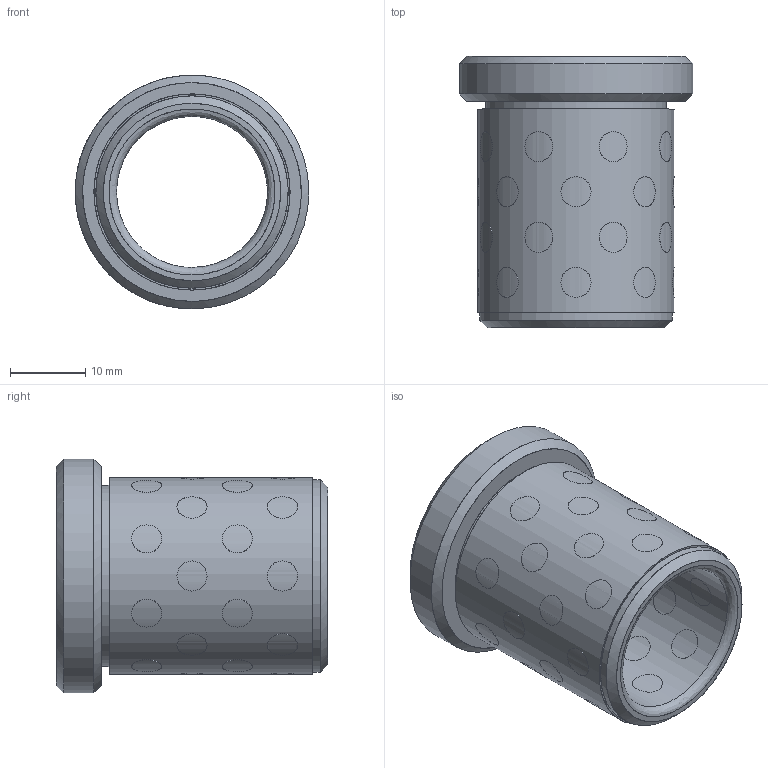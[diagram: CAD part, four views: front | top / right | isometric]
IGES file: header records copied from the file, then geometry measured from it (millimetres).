
Start section: Missler Software BP 521, 31674 Labege Cedex, France Tel   : +33 (0)5 61 00 03 00 Fax   : +33 (0)5 61 00 03 03 Email : sup.topsolid@topsolid.com
Global section: file name: D:\Cuma\D30.05\D30.05_2036.igs; native system: TopSolid v605250 Missler Software; preprocessor: IGES preprocessor v100000; date: 030120.204031; units: millimetre
Bounding box: 31 x 36 x 31 mm (x, y, z)
Surface area: 8624.5 mm2 (no closed solid volume)
Topology: 0 solids, 0 shells, 135 faces, 2996 edges, 2908 vertices
Faces by surface type: bspline 135
